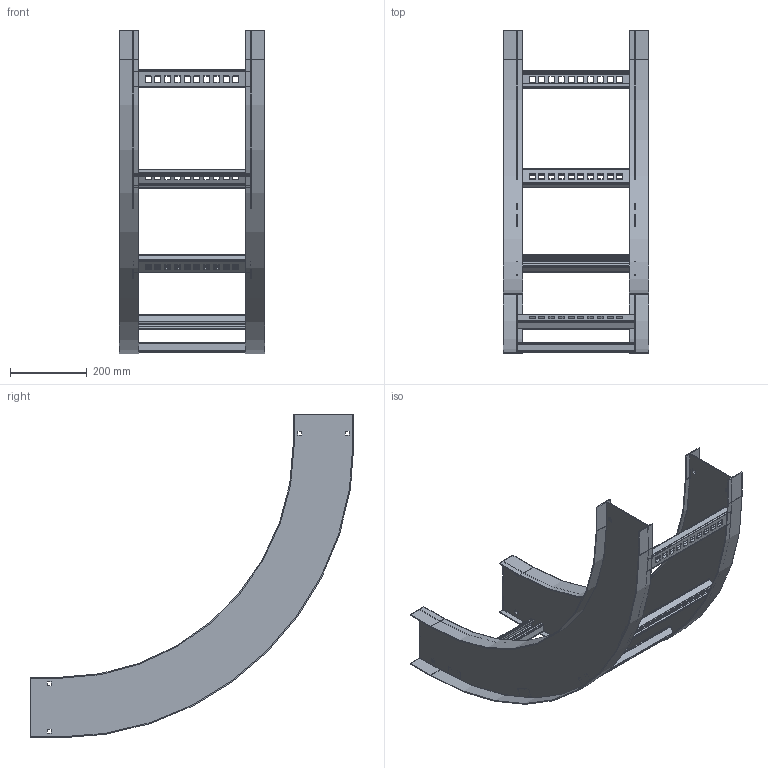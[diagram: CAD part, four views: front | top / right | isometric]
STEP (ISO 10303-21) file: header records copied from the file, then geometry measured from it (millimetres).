
FILE_DESCRIPTION((''),'2;1');
FILE_NAME('AHF612LVI9024_ASM','2010-01-28T',('erouzier'),(''),'PRO/ENGINEER BY PARAMETRIC TECHNOLOGY CORPORATION, 2008510','PRO/ENGINEER BY PARAMETRIC TECHNOLOGY CORPORATION, 2008510','');
FILE_SCHEMA(('CONFIG_CONTROL_DESIGN'));
Length unit declared in the file: inch
Products named in the file (3): CDS001658_6_90_24; CDS002159L12-P; AHF612LVI9024_ASM
Assembly tree (7 placements, depth 2):
  AHF612LVI9024_ASM
    CDS001658_6_90_24  x2
    CDS002159L12-P  x5
Bounding box: 379.22 x 843.79 x 843.79 mm (x, y, z)
Volume: 1790875.1 mm3; surface area: 1610015.2 mm2
Topology: 7 solids, 7 shells, 634 faces, 1860 edges, 1240 vertices
Faces by surface type: plane 367, cylinder 267
Entity records: 5232 total; most frequent: CARTESIAN_POINT 902, ORIENTED_EDGE 888, DIRECTION 882, EDGE_CURVE 444, VECTOR 330, LINE 330, VERTEX_POINT 296, AXIS2_PLACEMENT_3D 276
